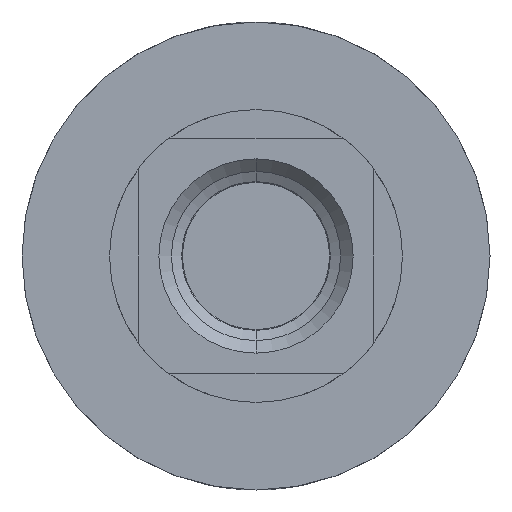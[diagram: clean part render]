
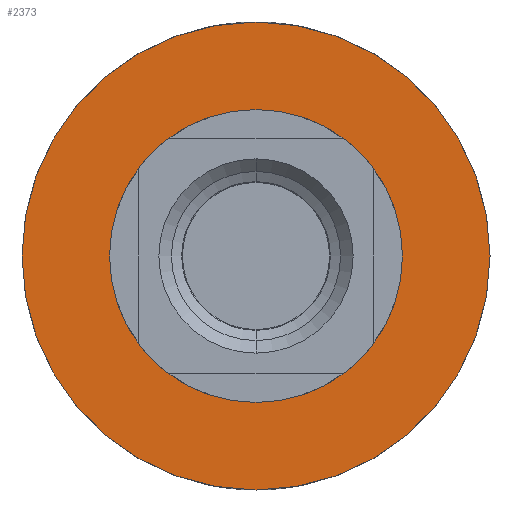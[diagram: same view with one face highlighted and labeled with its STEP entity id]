
A CAD part, front view. The second image highlights one B-rep face of the part: STEP entity #2373.
In plain terms, the highlighted planar face has unit normal (0, -1, 0).
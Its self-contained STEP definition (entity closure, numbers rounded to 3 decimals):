
#26 = CARTESIAN_POINT ( 'NONE',  ( 0., 11., -7.95 ) ) ;
#156 = AXIS2_PLACEMENT_3D ( 'NONE', #2783, #1840, #2788 ) ;
#194 = ORIENTED_EDGE ( 'NONE', *, *, #2154, .T. ) ;
#323 = VERTEX_POINT ( 'NONE', #26 ) ;
#563 = CARTESIAN_POINT ( 'NONE',  ( 0., 11., 4.975 ) ) ;
#583 = VERTEX_POINT ( 'NONE', #2921 ) ;
#807 = VERTEX_POINT ( 'NONE', #1833 ) ;
#897 = EDGE_CURVE ( 'NONE', #583, #323, #2494, .T. ) ;
#1175 = FACE_BOUND ( 'NONE', #1734, .T. ) ;
#1195 = VERTEX_POINT ( 'NONE', #563 ) ;
#1246 = FACE_OUTER_BOUND ( 'NONE', #2350, .T. ) ;
#1263 = ORIENTED_EDGE ( 'NONE', *, *, #2819, .T. ) ;
#1395 = CARTESIAN_POINT ( 'NONE',  ( 0., 11., 0. ) ) ;
#1399 = DIRECTION ( 'NONE',  ( 0., 1., 0. ) ) ;
#1402 = DIRECTION ( 'NONE',  ( 0., 0., -1. ) ) ;
#1734 = EDGE_LOOP ( 'NONE', ( #194, #1263 ) ) ;
#1823 = EDGE_CURVE ( 'NONE', #323, #583, #2714, .T. ) ;
#1833 = CARTESIAN_POINT ( 'NONE',  ( 0., 11., -4.975 ) ) ;
#1840 = DIRECTION ( 'NONE',  ( 0., 1., 0. ) ) ;
#1914 = CIRCLE ( 'NONE', #2050, 4.975 ) ;
#1921 = CIRCLE ( 'NONE', #2942, 4.975 ) ;
#1994 = AXIS2_PLACEMENT_3D ( 'NONE', #1395, #1399, #1402 ) ;
#2030 = AXIS2_PLACEMENT_3D ( 'NONE', #2487, #2501, #2502 ) ;
#2050 = AXIS2_PLACEMENT_3D ( 'NONE', #2127, #2130, #2131 ) ;
#2127 = CARTESIAN_POINT ( 'NONE',  ( 0., 11., 0. ) ) ;
#2130 = DIRECTION ( 'NONE',  ( 0., 1., 0. ) ) ;
#2131 = DIRECTION ( 'NONE',  ( 0., 0., -1. ) ) ;
#2154 = EDGE_CURVE ( 'NONE', #807, #1195, #1914, .T. ) ;
#2287 = ORIENTED_EDGE ( 'NONE', *, *, #1823, .F. ) ;
#2350 = EDGE_LOOP ( 'NONE', ( #2287, #2652 ) ) ;
#2373 = ADVANCED_FACE ( 'NONE', ( #1175, #1246 ), #2498, .T. ) ;
#2487 = CARTESIAN_POINT ( 'NONE',  ( 4.975, 11., 0. ) ) ;
#2494 = CIRCLE ( 'NONE', #156, 7.95 ) ;
#2498 = PLANE ( 'NONE',  #2030 ) ;
#2501 = DIRECTION ( 'NONE',  ( 0., -1., 0. ) ) ;
#2502 = DIRECTION ( 'NONE',  ( 0., 0., -1. ) ) ;
#2652 = ORIENTED_EDGE ( 'NONE', *, *, #897, .F. ) ;
#2714 = CIRCLE ( 'NONE', #1994, 7.95 ) ;
#2783 = CARTESIAN_POINT ( 'NONE',  ( 0., 11., 0. ) ) ;
#2788 = DIRECTION ( 'NONE',  ( 0., 0., -1. ) ) ;
#2819 = EDGE_CURVE ( 'NONE', #1195, #807, #1921, .T. ) ;
#2921 = CARTESIAN_POINT ( 'NONE',  ( 0., 11., 7.95 ) ) ;
#2942 = AXIS2_PLACEMENT_3D ( 'NONE', #2950, #2955, #2961 ) ;
#2950 = CARTESIAN_POINT ( 'NONE',  ( 0., 11., 0. ) ) ;
#2955 = DIRECTION ( 'NONE',  ( 0., 1., 0. ) ) ;
#2961 = DIRECTION ( 'NONE',  ( 0., 0., -1. ) ) ;
